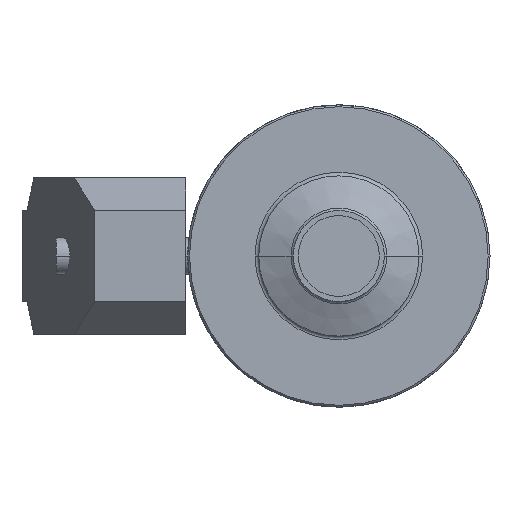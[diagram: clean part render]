
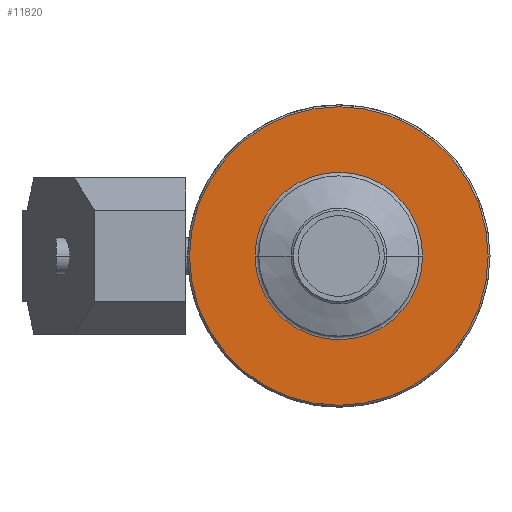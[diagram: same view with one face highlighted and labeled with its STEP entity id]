
A CAD part, left-side view. The second image highlights one B-rep face of the part: STEP entity #11820.
In plain terms, the highlighted planar face has unit normal (-1, 0, 0).
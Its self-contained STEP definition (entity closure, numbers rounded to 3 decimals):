
#8800=CARTESIAN_POINT('',(24.717,-5.188,0.));
#8810=VERTEX_POINT('',#8800);
#8840=CARTESIAN_POINT('',(24.717,17.812,0.));
#8850=DIRECTION('',(1.,0.,0.));
#8860=DIRECTION('',(0.,1.,0.));
#8870=AXIS2_PLACEMENT_3D('',#8840,#8850,#8860);
#8880=CIRCLE('',#8870,23.);
#8890=CARTESIAN_POINT('',(24.717,40.812,0.));
#8900=VERTEX_POINT('',#8890);
#8910=EDGE_CURVE('',#8810,#8900,#8880,.T.);
#11440=CARTESIAN_POINT('',(24.717,-23.188,0.));
#11450=VERTEX_POINT('',#11440);
#11530=CARTESIAN_POINT('',(24.717,58.812,
0.));
#11540=VERTEX_POINT('',#11530);
#11570=CARTESIAN_POINT('',(24.717,17.812,0.));
#11580=DIRECTION('',(1.,0.,0.));
#11590=DIRECTION('',(0.,1.,0.));
#11600=AXIS2_PLACEMENT_3D('',#11570,#11580,#11590);
#11610=CIRCLE('',#11600,41.);
#11620=EDGE_CURVE('',#11450,#11540,#11610,.T.);
#11670=CARTESIAN_POINT('',(24.717,56.712,0.));
#11680=DIRECTION('',(-1.,0.,0.));
#11690=DIRECTION('',(0.,1.,0.));
#11700=AXIS2_PLACEMENT_3D('',#11670,#11680,#11690);
#11710=PLANE('',#11700);
#11720=EDGE_CURVE('',#8900,#8810,#8880,.T.);
#11730=ORIENTED_EDGE('',*,*,#11720,.T.);
#11740=ORIENTED_EDGE('',*,*,#8910,.T.);
#11750=EDGE_LOOP('',(#11740,#11730));
#11760=FACE_BOUND('',#11750,.T.);
#11770=EDGE_CURVE('',#11540,#11450,#11610,.T.);
#11780=ORIENTED_EDGE('',*,*,#11770,.F.);
#11790=ORIENTED_EDGE('',*,*,#11620,.F.);
#11800=EDGE_LOOP('',(#11790,#11780));
#11810=FACE_OUTER_BOUND('',#11800,.T.);
#11820=ADVANCED_FACE('',(#11760,#11810),#11710,.T.);
